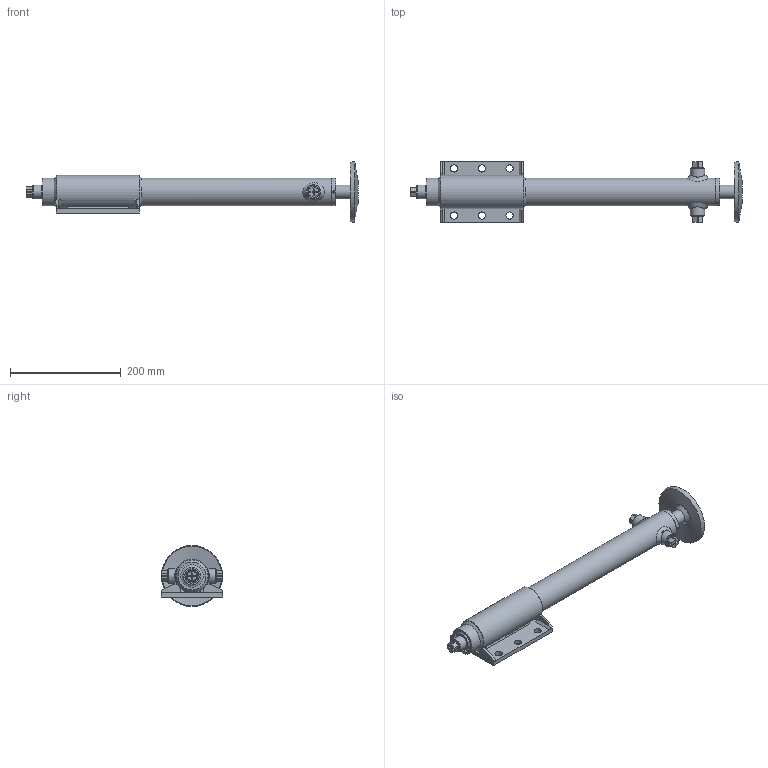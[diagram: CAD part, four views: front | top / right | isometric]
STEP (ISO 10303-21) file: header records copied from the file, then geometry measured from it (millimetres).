
FILE_DESCRIPTION( ( 'Unknown' ), '1' );
FILE_NAME( 'E:/LIBRERIA_3d/CILINDRI/HMS/HMS00400250400.stp', 'Unknown', ( 'Unknown' ), ( 'Unknown' ), 'PSStep 17.0.49', 'Unknown', ' ' );
FILE_SCHEMA( ( 'AUTOMOTIVE_DESIGN { 1 0 10303 214 1 1 1 1 }' ) );
Length unit declared in the file: millimetre
Products named in the file (39): CG05004025; CTFV0401615; AVG3004080; CHMSASP040; Saldatura d'angolo 1-oa2; Protrusione 1-oa3; CHMSTUB040; CHMSPR0400; CHMSRF0400; STLS0400500400-oa7; MAT_PRIMA_TUBO_FT05004000-oa4; Saldatura d'angolo 1-oa5; Saldatura d'angolo 2-oa6; CBSC220600; Assem1; Saldatura d'angolo 4-oa0; Saldatura d'angolo 2-oa1; CHMSCFI040; CHMSPTB040; APSEP43522; SBLS0250400400
Assembly tree (26 placements, depth 3):
  Saldatura d'angolo 1-oa2
  Saldatura d'angolo 1-oa2
  Saldatura d'angolo 1-oa2
  Saldatura d'angolo 1-oa2
  Saldatura d'angolo 1-oa2
Bounding box: 598.5 x 110 x 110 mm (x, y, z)
Volume: 1063097.8 mm3; surface area: 385191.9 mm2
Topology: 40 solids, 40 shells, 450 faces, 980 edges, 637 vertices
Faces by surface type: plane 245, cylinder 104, cone 63, torus 34, bspline 4
Full cylindrical faces by diameter (mm): 3 x2, 3.242 x1, 4 x5, 4.25 x2, 7 x3, 7.5 x3, 13 x7, 13.7 x1, 14.5 x1, 14.95 x4, 16 x2, 16.662 x3, 17 x3, 20 x1, 22.2 x3, 25 x7, 26 x6, 27 x1, 28 x1, 30 x2, 33 x1, 33.6 x1, 35 x1, 35.4 x2, 38.5 x2, 40 x1, 40.3 x1, 40.5 x1, 40.6 x1, 41 x3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
Entity records: 14858 total; most frequent: CARTESIAN_POINT 4269, DIRECTION 1580, ORIENTED_EDGE 1116, AXIS2_PLACEMENT_3D 655, EDGE_LOOP 594, EDGE_CURVE 558, FACE_OUTER_BOUND 478, VERTEX_POINT 450
